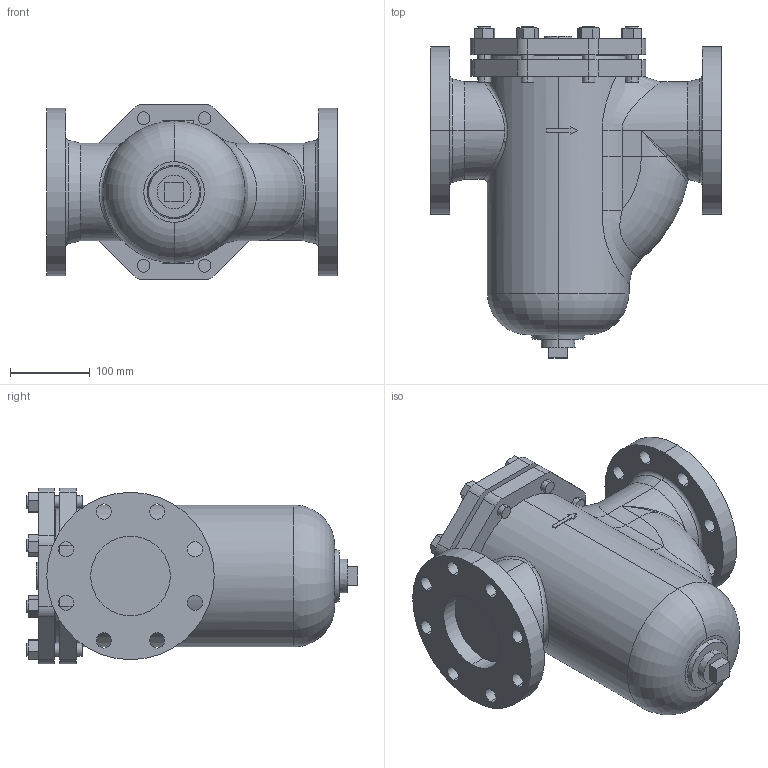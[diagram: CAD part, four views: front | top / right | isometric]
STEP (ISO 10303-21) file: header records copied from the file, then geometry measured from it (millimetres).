
FILE_DESCRIPTION (( 'STEP AP203' ), '1' );
FILE_NAME ('SU-20 100A.STEP', '2025-12-15T01:26:51', ( '' ), ( '' ), 'SwSTEP 2.0', 'SolidWorks 2024', '' );
FILE_SCHEMA (( 'CONFIG_CONTROL_DESIGN' ));
Length unit declared in the file: millimetre
Products named in the file (1): SU-20 100A
Bounding box: 365 x 416.3 x 220 mm (x, y, z)
Volume: 13434264.3 mm3; surface area: 540248.4 mm2
Topology: 1 solids, 1 shells, 275 faces, 694 edges, 455 vertices
Faces by surface type: plane 127, cylinder 121, cone 12, torus 7, bspline 6, sphere 2
Entity records: 10570 total; most frequent: CARTESIAN_POINT 3600, DIRECTION 1480, ORIENTED_EDGE 1386, EDGE_CURVE 693, AXIS2_PLACEMENT_3D 551, VERTEX_POINT 455, VECTOR 378, LINE 378
